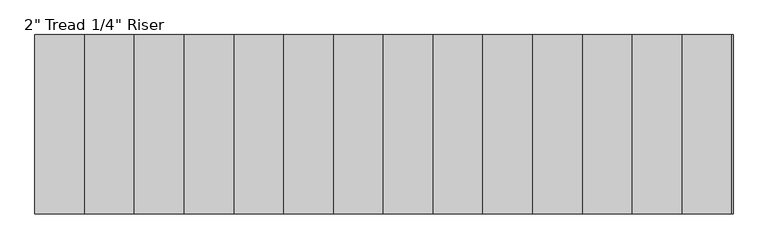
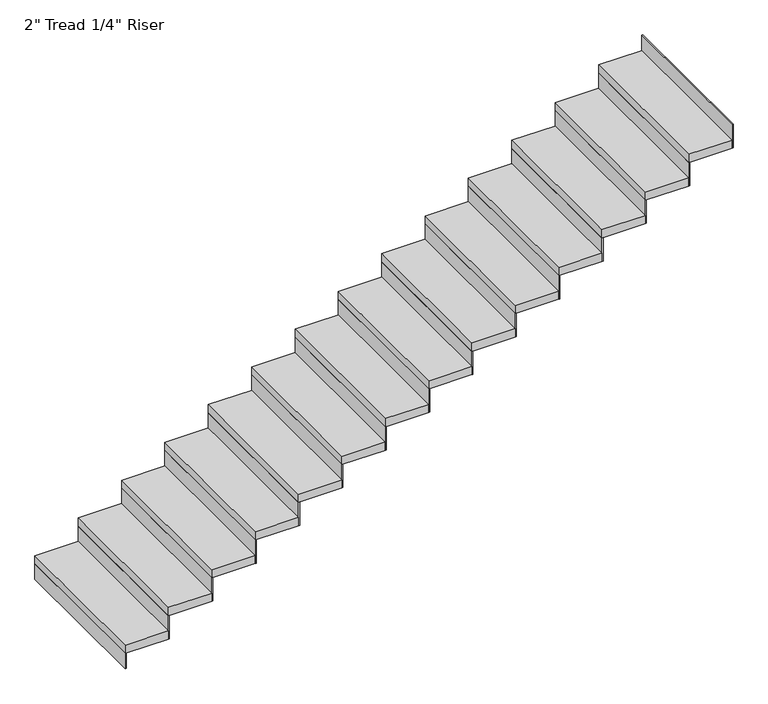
"""IFC4 building model written with IfcOpenShell, lengths in millimetres: stair flight geometry."""

from ifc_helpers import new_model, si_unit, frame, origin, origin_with_axes, place, context, project, spatial, polyline, outline, extrude, source, transform, mapped, element, save


def stair_flight_db9d9bea(model_context):
    return source(origin(), model_context, "Body", "SweptSolid", [
        extrude(outline(polyline([(109152.4382982, 33927.1265585), (109146.0882982, 33927.1265585), (109146.0882982, 34841.5265585), (109152.4382982, 34841.5265585), (109152.4382982, 33927.1265585)])), origin_with_axes(), (0.0, 0.0, 1.0), 94.3428571),
        extrude(outline(polyline([(109400.0882982, 34841.5265585), (109400.0882982, 33927.1265585), (109146.0882982, 33927.1265585), (109146.0882982, 34841.5265585), (109400.0882982, 34841.5265585)])), frame((0.0, 0.0, 94.3428571), z_axis=(0.0, 0.0, 1.0), x_axis=(1.0, 0.0, 0.0)), (0.0, 0.0, 1.0), 50.8),
        extrude(outline(polyline([(109406.4382982, 33927.1265585), (109400.0882982, 33927.1265585), (109400.0882982, 34841.5265585), (109406.4382982, 34841.5265585), (109406.4382982, 33927.1265585)])), frame((0.0, 0.0, 94.3428571), z_axis=(0.0, 0.0, 1.0), x_axis=(1.0, 0.0, 0.0)), (0.0, 0.0, 1.0), 145.1428571),
        extrude(outline(polyline([(109654.0882982, 34841.5265585), (109654.0882982, 33927.1265585), (109400.0882982, 33927.1265585), (109400.0882982, 34841.5265585), (109654.0882982, 34841.5265585)])), frame((0.0, 0.0, 239.4857143), z_axis=(0.0, 0.0, 1.0), x_axis=(1.0, 0.0, 0.0)), (0.0, 0.0, 1.0), 50.8),
        extrude(outline(polyline([(109660.4382982, 33927.1265585), (109654.0882982, 33927.1265585), (109654.0882982, 34841.5265585), (109660.4382982, 34841.5265585), (109660.4382982, 33927.1265585)])), frame((0.0, 0.0, 239.4857143), z_axis=(0.0, 0.0, 1.0), x_axis=(1.0, 0.0, 0.0)), (0.0, 0.0, 1.0), 145.1428571),
        extrude(outline(polyline([(109908.0882982, 34841.5265585), (109908.0882982, 33927.1265585), (109654.0882982, 33927.1265585), (109654.0882982, 34841.5265585), (109908.0882982, 34841.5265585)])), frame((0.0, 0.0, 384.6285714), z_axis=(0.0, 0.0, 1.0), x_axis=(1.0, 0.0, 0.0)), (0.0, 0.0, 1.0), 50.8),
        extrude(outline(polyline([(109914.4382982, 33927.1265585), (109908.0882982, 33927.1265585), (109908.0882982, 34841.5265585), (109914.4382982, 34841.5265585), (109914.4382982, 33927.1265585)])), frame((0.0, 0.0, 384.6285714), z_axis=(0.0, 0.0, 1.0), x_axis=(1.0, 0.0, 0.0)), (0.0, 0.0, 1.0), 145.1428571),
        extrude(outline(polyline([(110162.0882982, 34841.5265585), (110162.0882982, 33927.1265585), (109908.0882982, 33927.1265585), (109908.0882982, 34841.5265585), (110162.0882982, 34841.5265585)])), frame((0.0, 0.0, 529.7714286), z_axis=(0.0, 0.0, 1.0), x_axis=(1.0, 0.0, 0.0)), (0.0, 0.0, 1.0), 50.8),
        extrude(outline(polyline([(110168.4382982, 33927.1265585), (110162.0882982, 33927.1265585), (110162.0882982, 34841.5265585), (110168.4382982, 34841.5265585), (110168.4382982, 33927.1265585)])), frame((0.0, 0.0, 529.7714286), z_axis=(0.0, 0.0, 1.0), x_axis=(1.0, 0.0, 0.0)), (0.0, 0.0, 1.0), 145.1428571),
        extrude(outline(polyline([(110416.0882982, 34841.5265585), (110416.0882982, 33927.1265585), (110162.0882982, 33927.1265585), (110162.0882982, 34841.5265585), (110416.0882982, 34841.5265585)])), frame((0.0, 0.0, 674.9142857), z_axis=(0.0, 0.0, 1.0), x_axis=(1.0, 0.0, 0.0)), (0.0, 0.0, 1.0), 50.8),
        extrude(outline(polyline([(110422.4382982, 33927.1265585), (110416.0882982, 33927.1265585), (110416.0882982, 34841.5265585), (110422.4382982, 34841.5265585), (110422.4382982, 33927.1265585)])), frame((0.0, 0.0, 674.9142857), z_axis=(0.0, 0.0, 1.0), x_axis=(1.0, 0.0, 0.0)), (0.0, 0.0, 1.0), 145.1428571),
        extrude(outline(polyline([(110670.0882982, 34841.5265585), (110670.0882982, 33927.1265585), (110416.0882982, 33927.1265585), (110416.0882982, 34841.5265585), (110670.0882982, 34841.5265585)])), frame((0.0, 0.0, 820.0571429), z_axis=(0.0, 0.0, 1.0), x_axis=(1.0, 0.0, 0.0)), (0.0, 0.0, 1.0), 50.8),
        extrude(outline(polyline([(110676.4382982, 33927.1265585), (110670.0882982, 33927.1265585), (110670.0882982, 34841.5265585), (110676.4382982, 34841.5265585), (110676.4382982, 33927.1265585)])), frame((0.0, 0.0, 820.0571429), z_axis=(0.0, 0.0, 1.0), x_axis=(1.0, 0.0, 0.0)), (0.0, 0.0, 1.0), 145.1428571),
        extrude(outline(polyline([(110924.0882982, 34841.5265585), (110924.0882982, 33927.1265585), (110670.0882982, 33927.1265585), (110670.0882982, 34841.5265585), (110924.0882982, 34841.5265585)])), frame((0.0, 0.0, 965.2), z_axis=(0.0, 0.0, 1.0), x_axis=(1.0, 0.0, 0.0)), (0.0, 0.0, 1.0), 50.8),
        extrude(outline(polyline([(110930.4382982, 33927.1265585), (110924.0882982, 33927.1265585), (110924.0882982, 34841.5265585), (110930.4382982, 34841.5265585), (110930.4382982, 33927.1265585)])), frame((0.0, 0.0, 965.2), z_axis=(0.0, 0.0, 1.0), x_axis=(1.0, 0.0, 0.0)), (0.0, 0.0, 1.0), 145.1428571),
        extrude(outline(polyline([(111178.0882982, 34841.5265585), (111178.0882982, 33927.1265585), (110924.0882982, 33927.1265585), (110924.0882982, 34841.5265585), (111178.0882982, 34841.5265585)])), frame((0.0, 0.0, 1110.3428571), z_axis=(0.0, 0.0, 1.0), x_axis=(1.0, 0.0, 0.0)), (0.0, 0.0, 1.0), 50.8),
        extrude(outline(polyline([(111184.4382982, 33927.1265585), (111178.0882982, 33927.1265585), (111178.0882982, 34841.5265585), (111184.4382982, 34841.5265585), (111184.4382982, 33927.1265585)])), frame((0.0, 0.0, 1110.3428571), z_axis=(0.0, 0.0, 1.0), x_axis=(1.0, 0.0, 0.0)), (0.0, 0.0, 1.0), 145.1428571),
        extrude(outline(polyline([(111432.0882982, 34841.5265585), (111432.0882982, 33927.1265585), (111178.0882982, 33927.1265585), (111178.0882982, 34841.5265585), (111432.0882982, 34841.5265585)])), frame((0.0, 0.0, 1255.4857143), z_axis=(0.0, 0.0, 1.0), x_axis=(1.0, 0.0, 0.0)), (0.0, 0.0, 1.0), 50.8),
        extrude(outline(polyline([(111438.4382982, 33927.1265585), (111432.0882982, 33927.1265585), (111432.0882982, 34841.5265585), (111438.4382982, 34841.5265585), (111438.4382982, 33927.1265585)])), frame((0.0, 0.0, 1255.4857143), z_axis=(0.0, 0.0, 1.0), x_axis=(1.0, 0.0, 0.0)), (0.0, 0.0, 1.0), 145.1428571),
        extrude(outline(polyline([(111686.0882982, 34841.5265585), (111686.0882982, 33927.1265585), (111432.0882982, 33927.1265585), (111432.0882982, 34841.5265585), (111686.0882982, 34841.5265585)])), frame((0.0, 0.0, 1400.6285714), z_axis=(0.0, 0.0, 1.0), x_axis=(1.0, 0.0, 0.0)), (0.0, 0.0, 1.0), 50.8),
        extrude(outline(polyline([(111692.4382982, 33927.1265585), (111686.0882982, 33927.1265585), (111686.0882982, 34841.5265585), (111692.4382982, 34841.5265585), (111692.4382982, 33927.1265585)])), frame((0.0, 0.0, 1400.6285714), z_axis=(0.0, 0.0, 1.0), x_axis=(1.0, 0.0, 0.0)), (0.0, 0.0, 1.0), 145.1428571),
        extrude(outline(polyline([(111940.0882982, 34841.5265585), (111940.0882982, 33927.1265585), (111686.0882982, 33927.1265585), (111686.0882982, 34841.5265585), (111940.0882982, 34841.5265585)])), frame((0.0, 0.0, 1545.7714286), z_axis=(0.0, 0.0, 1.0), x_axis=(1.0, 0.0, 0.0)), (0.0, 0.0, 1.0), 50.8),
        extrude(outline(polyline([(111946.4382982, 33927.1265585), (111940.0882982, 33927.1265585), (111940.0882982, 34841.5265585), (111946.4382982, 34841.5265585), (111946.4382982, 33927.1265585)])), frame((0.0, 0.0, 1545.7714286), z_axis=(0.0, 0.0, 1.0), x_axis=(1.0, 0.0, 0.0)), (0.0, 0.0, 1.0), 145.1428571),
        extrude(outline(polyline([(112194.0882982, 34841.5265585), (112194.0882982, 33927.1265585), (111940.0882982, 33927.1265585), (111940.0882982, 34841.5265585), (112194.0882982, 34841.5265585)])), frame((0.0, 0.0, 1690.9142857), z_axis=(0.0, 0.0, 1.0), x_axis=(1.0, 0.0, 0.0)), (0.0, 0.0, 1.0), 50.8),
        extrude(outline(polyline([(112200.4382982, 33927.1265585), (112194.0882982, 33927.1265585), (112194.0882982, 34841.5265585), (112200.4382982, 34841.5265585), (112200.4382982, 33927.1265585)])), frame((0.0, 0.0, 1690.9142857), z_axis=(0.0, 0.0, 1.0), x_axis=(1.0, 0.0, 0.0)), (0.0, 0.0, 1.0), 145.1428571),
        extrude(outline(polyline([(112448.0882982, 34841.5265585), (112448.0882982, 33927.1265585), (112194.0882982, 33927.1265585), (112194.0882982, 34841.5265585), (112448.0882982, 34841.5265585)])), frame((0.0, 0.0, 1836.0571429), z_axis=(0.0, 0.0, 1.0), x_axis=(1.0, 0.0, 0.0)), (0.0, 0.0, 1.0), 50.8),
        extrude(outline(polyline([(112454.4382982, 33927.1265585), (112448.0882982, 33927.1265585), (112448.0882982, 34841.5265585), (112454.4382982, 34841.5265585), (112454.4382982, 33927.1265585)])), frame((0.0, 0.0, 1836.0571429), z_axis=(0.0, 0.0, 1.0), x_axis=(1.0, 0.0, 0.0)), (0.0, 0.0, 1.0), 145.1428571),
        extrude(outline(polyline([(112708.4382982, 33927.1265585), (112702.0882982, 33927.1265585), (112702.0882982, 34841.5265585), (112708.4382982, 34841.5265585), (112708.4382982, 33927.1265585)])), frame((0.0, 0.0, 1981.2), z_axis=(0.0, 0.0, 1.0), x_axis=(1.0, 0.0, 0.0)), (0.0, 0.0, 1.0), 145.1428571),
        extrude(outline(polyline([(112702.0882982, 34841.5265585), (112702.0882982, 33927.1265585), (112448.0882982, 33927.1265585), (112448.0882982, 34841.5265585), (112702.0882982, 34841.5265585)])), frame((0.0, 0.0, 1981.2), z_axis=(0.0, 0.0, 1.0), x_axis=(1.0, 0.0, 0.0)), (0.0, 0.0, 1.0), 50.8),
    ])


if __name__ == "__main__":
    model = new_model("IFC4")
    model_context = context("Model", 3, world=origin())
    ifc_project = project(units=[si_unit("LENGTHUNIT", "METRE", prefix="MILLI")], contexts=[model_context])
    site = spatial("IfcSite", under=ifc_project)
    building = spatial("IfcBuilding", under=site)
    placement = place(None, origin())
    stair_flight_shape = stair_flight_db9d9bea(model_context)
    element("IfcStairFlight", 1, ObjectType="2\" Tread 1/4\" Riser", at=placement, inside=building, context=model_context, shape_type="MappedRepresentation", body=[
        mapped(stair_flight_shape, transform((0.0, 0.0, 0.0), x_axis=(1.0, 0.0, 0.0), y_axis=(0.0, 1.0, 0.0), z_axis=(0.0, 0.0, 1.0))),
    ])
    save(model, "model.ifc")
